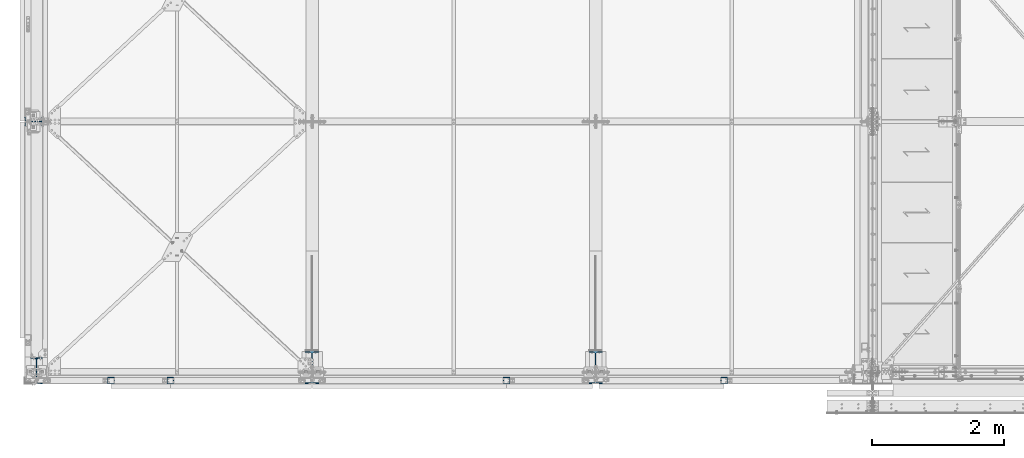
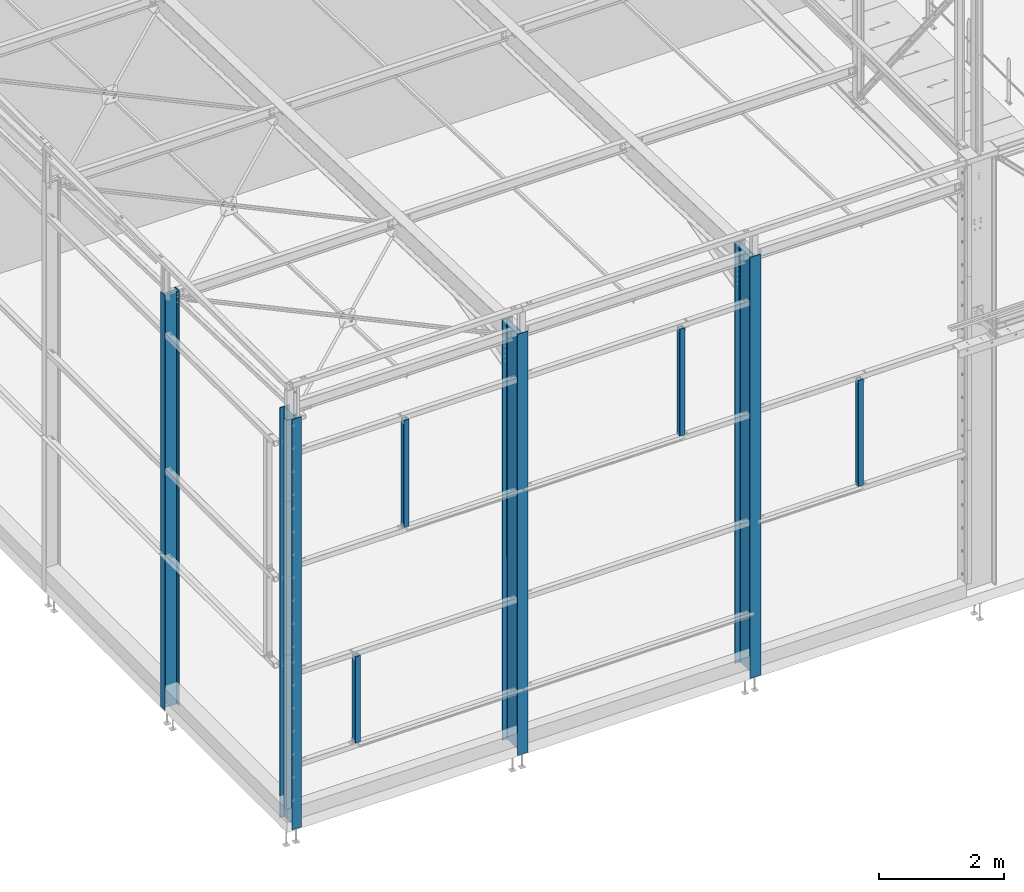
# One storey, part 1 of 362: 8 columns, 8 elements without a shape of their own.
"""IFC2X3 building model written with IfcOpenShell, lengths in millimetres."""

import ifcopenshell
import ifcopenshell.guid

model = None  # the IFC model being written
_history = None  # IfcOwnerHistory: only IFC2X3 demands one
_inside = {}  # id of a spatial element -> (the spatial element, [elements in it])
_under = {}  # id of a project, library or spatial element -> (it, [spatial elements below it])
_declared = {}  # id of a project -> (the project, [libraries it declares])
_typed = {}  # id of a type object -> (the type object, [elements of that type])
_made_of = {}  # id of a material, layer set ... -> (it, [elements and type objects made of it])


def new_model(schema):
    """Start an empty IFC model of exactly this schema.

    Asked for "IFC4X3", IfcOpenShell would pick the latest addendum, in which some entities
    have other attributes; the version numbers below select the first issue.
    IFC2X3 requires an IfcOwnerHistory on every rooted entity: one is made here for all.
    """
    global model, _history
    if schema == "IFC4X3":
        model = ifcopenshell.file(schema_version=(4, 3, 0, 0))
    else:
        model = ifcopenshell.file(schema=schema)
    _inside.clear()
    _under.clear()
    _declared.clear()
    _typed.clear()
    _made_of.clear()
    _history = None
    if model.schema == "IFC2X3":
        org = make("IfcOrganization", Name="unknown")
        user = make(
            "IfcPersonAndOrganization",
            ThePerson=make("IfcPerson", FamilyName="unknown"),
            TheOrganization=org,
        )
        app = make(
            "IfcApplication",
            ApplicationDeveloper=org,
            Version="unknown",
            ApplicationFullName="unknown",
            ApplicationIdentifier="unknown",
        )
        _history = make(
            "IfcOwnerHistory",
            OwningUser=user,
            OwningApplication=app,
            ChangeAction="ADDED",
            CreationDate=0,
        )
    return model


def make(cls, **values):
    """One entity of the class cls with the attributes given. An attribute that is None is left unset."""
    return model.create_entity(
        cls, **{name: value for name, value in values.items() if value is not None}
    )


def rooted(cls, **values):
    """An entity with a GlobalId (a new one), such as an element, a storey or a relation."""
    return make(cls, GlobalId=ifcopenshell.guid.new(), OwnerHistory=_history, **values)


def si_unit(unit_type, name, prefix=None):
    """IfcSIUnit, for example si_unit("LENGTHUNIT", "METRE", prefix="MILLI")."""
    return make("IfcSIUnit", UnitType=unit_type, Prefix=prefix, Name=name)


def assignment(units):
    """IfcUnitAssignment: the units of a project."""
    return None if units is None else make("IfcUnitAssignment", Units=units)


def point(xyz):
    """IfcCartesianPoint."""
    return None if xyz is None else make("IfcCartesianPoint", Coordinates=xyz)


def direction(xyz):
    """IfcDirection."""
    return None if xyz is None else make("IfcDirection", DirectionRatios=xyz)


def frame(location, z_axis=None, x_axis=None):
    """IfcAxis2Placement3D, a coordinate frame: its origin and axes. An axis left out is left unset."""
    return make(
        "IfcAxis2Placement3D",
        Location=point(location),
        Axis=direction(z_axis),
        RefDirection=direction(x_axis),
    )


def frame_2d(location, x_axis=None):
    """IfcAxis2Placement2D, a coordinate frame in the plane: its origin and x axis."""
    return make(
        "IfcAxis2Placement2D", Location=point(location), RefDirection=direction(x_axis)
    )


def origin_with_axes():
    """The frame at (0, 0, 0) with the z axis (0, 0, 1) and the x axis (1, 0, 0) written out."""
    return frame((0.0, 0.0, 0.0), z_axis=(0.0, 0.0, 1.0), x_axis=(1.0, 0.0, 0.0))


def origin_2d_with_axis():
    """The frame at (0, 0) in the plane with the x axis (1, 0) written out."""
    return frame_2d((0.0, 0.0), x_axis=(1.0, 0.0))


def place(relative_to, where):
    """IfcLocalPlacement: puts the frame where relative to a parent placement (None: the world)."""
    return make(
        "IfcLocalPlacement", PlacementRelTo=relative_to, RelativePlacement=where
    )


def context(
    kind, dimensions, precision=None, world=None, true_north=None, identifier=None
):
    """IfcGeometricRepresentationContext, for example the 3D "Model" context."""
    return make(
        "IfcGeometricRepresentationContext",
        ContextIdentifier=identifier,
        ContextType=kind,
        CoordinateSpaceDimension=dimensions,
        Precision=precision,
        WorldCoordinateSystem=world,
        TrueNorth=true_north,
    )


def subcontext(parent, identifier, kind, view, scale=None):
    """IfcGeometricRepresentationSubContext, for example "Body" below "Model"."""
    return make(
        "IfcGeometricRepresentationSubContext",
        ContextIdentifier=identifier,
        ContextType=kind,
        ParentContext=parent,
        TargetScale=scale,
        TargetView=view,
    )


def project(units=None, contexts=None):
    """IfcProject with its units and contexts."""
    return rooted(
        "IfcProject",
        Name="project",
        RepresentationContexts=contexts,
        UnitsInContext=assignment(units),
    )


def spatial(cls, under=None, at=None, **own):
    """A site, building, storey or space (cls), placed at a placement, below another one or the project."""
    s = rooted(cls, ObjectPlacement=at, **own)
    if under is not None:
        _under.setdefault(under.id(), (under, []))[1].append(s)
    return s


def profile(cls, at=None, kind="AREA", **sizes):
    """A parametric profile (cls). Its sizes go by their IFC names, for example OverallWidth=200.0."""
    return make(cls, ProfileType=kind, Position=at, **sizes)


def hollow_rectangle(**sizes):
    """IfcRectangleHollowProfileDef."""
    return profile("IfcRectangleHollowProfileDef", **sizes)


def i_section(**sizes):
    """IfcIShapeProfileDef."""
    return profile("IfcIShapeProfileDef", **sizes)


def extrude(swept, where, along, depth):
    """IfcExtrudedAreaSolid: the profile swept, set in the frame where, extruded along a direction by depth."""
    return make(
        "IfcExtrudedAreaSolid",
        SweptArea=swept,
        Position=where,
        ExtrudedDirection=direction(along),
        Depth=depth,
    )


def clip(a, b, op="DIFFERENCE"):
    """IfcBooleanClippingResult: the solid a cut by the half space b."""
    return make(
        "IfcBooleanClippingResult", Operator=op, FirstOperand=a, SecondOperand=b
    )


def halfspace(plane, agree):
    """IfcHalfSpaceSolid: all space on one side of the plane z = 0 of the frame plane."""
    return make(
        "IfcHalfSpaceSolid",
        BaseSurface=make("IfcPlane", Position=plane),
        AgreementFlag=agree,
    )


def shape(context_of_items, identifier, shape_type, items):
    """IfcShapeRepresentation: the items that make up one representation, for example the "Body"."""
    return make(
        "IfcShapeRepresentation",
        ContextOfItems=context_of_items,
        RepresentationIdentifier=identifier,
        RepresentationType=shape_type,
        Items=items,
    )


def material(Name=None, Category=None):
    """IfcMaterial."""
    return make("IfcMaterial", Name=Name, Category=Category)


def made_of(thing, what):
    """Note that an element or type object is made of a material, layer set ...; save() writes the relation."""
    if what is not None:
        _made_of.setdefault(what.id(), (what, []))[1].append(thing)
    return thing


def type_object(cls, material=None, **own):
    """A type object (cls), such as IfcWallType, which elements share."""
    return made_of(rooted(cls, **own), material)


def element(
    cls,
    number,
    at=None,
    inside=None,
    cuts=None,
    type_object=None,
    material=None,
    context=None,
    identifier="Body",
    shape_type=None,
    held_by="IfcProductDefinitionShape",
    body=None,
    shapes=None,
    **own,
):
    """One element of the class cls, such as IfcWall. Its Tag is "e" and its number.

    at: its placement. inside: the storey or other place that contains it. cuts: it is an
    opening in that element (IfcRelVoidsElement). A single representation is given by context,
    identifier, shape_type and body (its items); several are given by shapes. held_by: the class
    of the entity that holds the representations. save() writes the other relations.
    """
    e = rooted(cls, Tag="e%d" % number, ObjectPlacement=at, **own)
    if body is not None:
        shapes = [shape(context, identifier, shape_type, body)]
    if shapes is not None:
        e.Representation = make(held_by, Representations=shapes)
    if inside is not None:
        _inside.setdefault(inside.id(), (inside, []))[1].append(e)
    if cuts is not None:
        rooted(
            "IfcRelVoidsElement", RelatingBuildingElement=cuts, RelatedOpeningElement=e
        )
    if type_object is not None:
        _typed.setdefault(type_object.id(), (type_object, []))[1].append(e)
    return made_of(e, material)


def aggregate(whole, parts):
    """IfcRelAggregates: a whole, such as a stair, and the parts it consists of."""
    return rooted("IfcRelAggregates", RelatingObject=whole, RelatedObjects=parts)


def save(model, path):
    """Write the relations noted so far, then the file.

    IfcRelAggregates (storeys below a building ...), IfcRelContainedInSpatialStructure (elements
    in a storey), IfcRelDefinesByType, IfcRelAssociatesMaterial and IfcRelDeclares: one each for
    every whole, place, type object, material and project.
    """
    for whole, parts in _under.values():
        aggregate(whole, parts)
    for where, things in _inside.values():
        rooted(
            "IfcRelContainedInSpatialStructure",
            RelatedElements=things,
            RelatingStructure=where,
        )
    for kind, things in _typed.values():
        rooted("IfcRelDefinesByType", RelatedObjects=things, RelatingType=kind)
    for what, things in _made_of.values():
        rooted("IfcRelAssociatesMaterial", RelatedObjects=things, RelatingMaterial=what)
    for by, libraries in _declared.values():
        rooted("IfcRelDeclares", RelatingContext=by, RelatedDefinitions=libraries)
    model.write(path)


model = new_model("IFC2X3")

# Units and contexts
model_context = context("Model", 3, precision=1e-05, world=origin_with_axes())
body_context = subcontext(model_context, "Body", "Model", "MODEL_VIEW")
ifc_project = project(units=[si_unit("LENGTHUNIT", "METRE", prefix="MILLI"), si_unit("AREAUNIT", "SQUARE_METRE"), si_unit("VOLUMEUNIT", "CUBIC_METRE"), si_unit("MASSUNIT", "GRAM", prefix="KILO"), si_unit("TIMEUNIT", "SECOND"), si_unit("PLANEANGLEUNIT", "RADIAN"), si_unit("SOLIDANGLEUNIT", "STERADIAN"), si_unit("THERMODYNAMICTEMPERATUREUNIT", "DEGREE_CELSIUS"), si_unit("LUMINOUSINTENSITYUNIT", "LUMEN")], contexts=[model_context])

# Site, building, storey
site_placement = place(None, origin_with_axes())
site = spatial("IfcSite", under=ifc_project, at=site_placement, Name="Undefined", CompositionType="ELEMENT")
building_placement = place(site_placement, origin_with_axes())
building = spatial("IfcBuilding", under=site, at=building_placement, Name="Undefined", CompositionType="ELEMENT")
storey_placement = place(building_placement, origin_with_axes())
storey = spatial("IfcBuildingStorey", under=building, at=storey_placement, Name="Undefined", CompositionType="ELEMENT", Elevation=0.0)

# Assembly, column
assembly_1_placement = place(storey_placement, origin_with_axes())
assembly_1 = element("IfcElementAssembly", 1, at=assembly_1_placement, inside=storey, Name="MONTANT", AssemblyPlace="NOTDEFINED", PredefinedType="NOTDEFINED")
ifc_material_1 = material(Name="Undefined/S235-E24")
column_type_1 = type_object("IfcColumnType", Name="TUBE-C-100*100*4", PredefinedType="NOTDEFINED")
column_1_placement = place(assembly_1_placement, frame((2029.99476747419, -129.999947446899, 5004.99999999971), z_axis=(0.0, 0.0, 1.0), x_axis=(0.0, 1.0, 0.0)))
column_1 = element("IfcColumn", 2, at=column_1_placement, type_object=column_type_1, material=ifc_material_1, Name="MONTANT", ObjectType="TUBE-C-100*100*4", context=body_context, shape_type="SweptSolid", body=[
    extrude(hollow_rectangle(XDim=100.0, YDim=100.0, WallThickness=4.0, InnerFilletRadius=4.0, OuterFilletRadius=8.0, at=origin_2d_with_axis()), frame((0.0, 0.0, 2090.0), z_axis=(0.0, 0.0, -1.0), x_axis=(0.0, 1.0, 0.0)), (0.0, 0.0, 1.0), 2090.0),
])
aggregate(assembly_1, [column_1])

assembly_2_placement = place(storey_placement, origin_with_axes())
assembly_2 = element("IfcElementAssembly", 3, at=assembly_2_placement, inside=storey, Name="MONTANT", AssemblyPlace="NOTDEFINED", PredefinedType="NOTDEFINED")
column_2_placement = place(assembly_2_placement, frame((10429.999999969, -129.99992309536, 2864.99999999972), z_axis=(0.0, 0.0, 1.0), x_axis=(0.0, 1.0, 0.0)))
column_2 = element("IfcColumn", 4, at=column_2_placement, type_object=column_type_1, material=ifc_material_1, Name="MONTANT", ObjectType="TUBE-C-100*100*4", context=body_context, shape_type="SweptSolid", body=[
    extrude(hollow_rectangle(XDim=100.0, YDim=100.0, WallThickness=4.0, InnerFilletRadius=4.0, OuterFilletRadius=8.0, at=origin_2d_with_axis()), frame((0.0, 0.0, 2070.0), z_axis=(0.0, 0.0, -1.0), x_axis=(0.0, 1.0, 0.0)), (0.0, 0.0, 1.0), 2070.0),
])
aggregate(assembly_2, [column_2])

assembly_3_placement = place(storey_placement, origin_with_axes())
assembly_3 = element("IfcElementAssembly", 5, at=assembly_3_placement, inside=storey, Name="MONTANT", AssemblyPlace="NOTDEFINED", PredefinedType="NOTDEFINED")
column_3_placement = place(assembly_3_placement, frame((1130.0, -129.999990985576, 1104.99999999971), z_axis=(0.0, 0.0, 1.0), x_axis=(0.0, 1.0, 0.0)))
column_3 = element("IfcColumn", 6, at=column_3_placement, type_object=column_type_1, material=ifc_material_1, Name="MONTANT", ObjectType="TUBE-C-100*100*4", context=body_context, shape_type="SweptSolid", body=[
    extrude(hollow_rectangle(XDim=100.0, YDim=100.0, WallThickness=4.0, InnerFilletRadius=4.0, OuterFilletRadius=8.0, at=origin_2d_with_axis()), frame((0.0, 0.0, 1690.0), z_axis=(0.0, 0.0, -1.0), x_axis=(0.0, 1.0, 0.0)), (0.0, 0.0, 1.0), 1690.0),
])
aggregate(assembly_3, [column_3])

assembly_4_placement = place(storey_placement, origin_with_axes())
assembly_4 = element("IfcElementAssembly", 7, at=assembly_4_placement, inside=storey, Name="MONTANT", AssemblyPlace="NOTDEFINED", PredefinedType="NOTDEFINED")
column_4_placement = place(assembly_4_placement, frame((7130.0025831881, -129.999947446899, 5004.99999999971), z_axis=(0.0, 0.0, 1.0), x_axis=(0.0, 1.0, 0.0)))
column_4 = element("IfcColumn", 8, at=column_4_placement, type_object=column_type_1, material=ifc_material_1, Name="MONTANT", ObjectType="TUBE-C-100*100*4", context=body_context, shape_type="SweptSolid", body=[
    extrude(hollow_rectangle(XDim=100.0, YDim=100.0, WallThickness=4.0, InnerFilletRadius=4.0, OuterFilletRadius=8.0, at=origin_2d_with_axis()), frame((0.0, 0.0, 2090.0), z_axis=(0.0, 0.0, -1.0), x_axis=(0.0, 1.0, 0.0)), (0.0, 0.0, 1.0), 2090.0),
])
aggregate(assembly_4, [column_4])

assembly_5_placement = place(storey_placement, origin_with_axes())
assembly_5 = element("IfcElementAssembly", 9, at=assembly_5_placement, inside=storey, Name="POTEAU", AssemblyPlace="NOTDEFINED", PredefinedType="NOTDEFINED")
ifc_material_2 = material(Name="Undefined/S275-E28")
column_type_2 = type_object("IfcColumnType", Name="IPE500", PredefinedType="NOTDEFINED")
column_5_placement = place(assembly_5_placement, frame((8479.99715044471, 70.0, -185.0), z_axis=(0.0, 0.0, 1.0), x_axis=(0.0, 1.0, 0.0)))
column_5 = element("IfcColumn", 10, at=column_5_placement, type_object=column_type_2, material=ifc_material_2, Name="POTEAU", ObjectType="IPE500", context=body_context, shape_type="Clipping", body=[
    clip(extrude(i_section(OverallWidth=200.0, OverallDepth=500.0, WebThickness=10.19999981, FlangeThickness=16.0, FilletRadius=21.0, at=origin_2d_with_axis()), frame((0.0, 0.0, 8234.99544952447), z_axis=(0.0, 0.0, -1.0), x_axis=(0.0, 1.0, 0.0)), (0.0, 0.0, 1.0), 8235.0), halfspace(frame((-250.0, 99.9999982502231, 8230.65175644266), z_axis=(0.0314107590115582, 0.0, 0.999506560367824), x_axis=(0.999506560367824, 0.0, -0.0314107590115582)), False)),
])
aggregate(assembly_5, [column_5])

assembly_6_placement = place(storey_placement, origin_with_axes())
assembly_6 = element("IfcElementAssembly", 11, at=assembly_6_placement, inside=storey, Name="POTEAU", AssemblyPlace="NOTDEFINED", PredefinedType="NOTDEFINED")
column_6_placement = place(assembly_6_placement, frame((4179.99715044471, 70.0, -185.0), z_axis=(0.0, 0.0, 1.0), x_axis=(0.0, 1.0, 0.0)))
column_6 = element("IfcColumn", 12, at=column_6_placement, type_object=column_type_2, material=ifc_material_2, Name="POTEAU", ObjectType="IPE500", context=body_context, shape_type="Clipping", body=[
    clip(extrude(i_section(OverallWidth=200.0, OverallDepth=500.0, WebThickness=10.19999981, FlangeThickness=16.0, FilletRadius=21.0, at=origin_2d_with_axis()), frame((0.0, 0.0, 8234.99544952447), z_axis=(0.0, 0.0, -1.0), x_axis=(0.0, 1.0, 0.0)), (0.0, 0.0, 1.0), 8235.0), halfspace(frame((-250.0, 99.9999982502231, 8230.65175644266), z_axis=(0.0314107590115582, 0.0, 0.999506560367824), x_axis=(0.999506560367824, 0.0, -0.0314107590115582)), False)),
])
aggregate(assembly_6, [column_6])

assembly_7_placement = place(storey_placement, origin_with_axes())
assembly_7 = element("IfcElementAssembly", 13, at=assembly_7_placement, inside=storey, Name="POTEAU", AssemblyPlace="NOTDEFINED", PredefinedType="NOTDEFINED")
column_type_3 = type_object("IfcColumnType", Name="IPE270", PredefinedType="NOTDEFINED")
column_7_placement = place(assembly_7_placement, frame((-45.0, 3800.0, -180.0), z_axis=(0.0, 0.0, 1.0), x_axis=(-1.0, 0.0, 0.0)))
column_7 = element("IfcColumn", 14, at=column_7_placement, type_object=column_type_3, material=ifc_material_2, Name="POTEAU", ObjectType="IPE270", context=body_context, shape_type="SweptSolid", body=[
    extrude(i_section(OverallWidth=135.0, OverallDepth=270.0, WebThickness=6.599999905, FlangeThickness=10.19999981, FilletRadius=15.0, at=origin_2d_with_axis()), frame((0.0, 0.0, 8104.99916593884), z_axis=(0.0, 0.0, -1.0), x_axis=(0.0, 1.0, 0.0)), (0.0, 0.0, 1.0), 8105.0),
])
aggregate(assembly_7, [column_7])

assembly_8_placement = place(storey_placement, origin_with_axes())
assembly_8 = element("IfcElementAssembly", 15, at=assembly_8_placement, inside=storey, Name="POTEAU", AssemblyPlace="NOTDEFINED", PredefinedType="NOTDEFINED")
column_type_4 = type_object("IfcColumnType", Name="IPE400", PredefinedType="NOTDEFINED")
column_8_placement = place(assembly_8_placement, frame((0.0, 20.0000000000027, -180.0), z_axis=(0.0, 0.0, 1.0), x_axis=(0.0, 1.0, 0.0)))
column_8 = element("IfcColumn", 16, at=column_8_placement, type_object=column_type_4, material=ifc_material_2, Name="POTEAU", ObjectType="IPE400", context=body_context, shape_type="SweptSolid", body=[
    extrude(i_section(OverallWidth=180.0, OverallDepth=400.0, WebThickness=8.600000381, FlangeThickness=13.5, FilletRadius=21.0, at=origin_2d_with_axis()), frame((0.0, 0.0, 8019.99544952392), z_axis=(0.0, 0.0, -1.0), x_axis=(0.0, 1.0, 0.0)), (0.0, 0.0, 1.0), 8020.0),
])
aggregate(assembly_8, [column_8])

save(model, "model.ifc")
